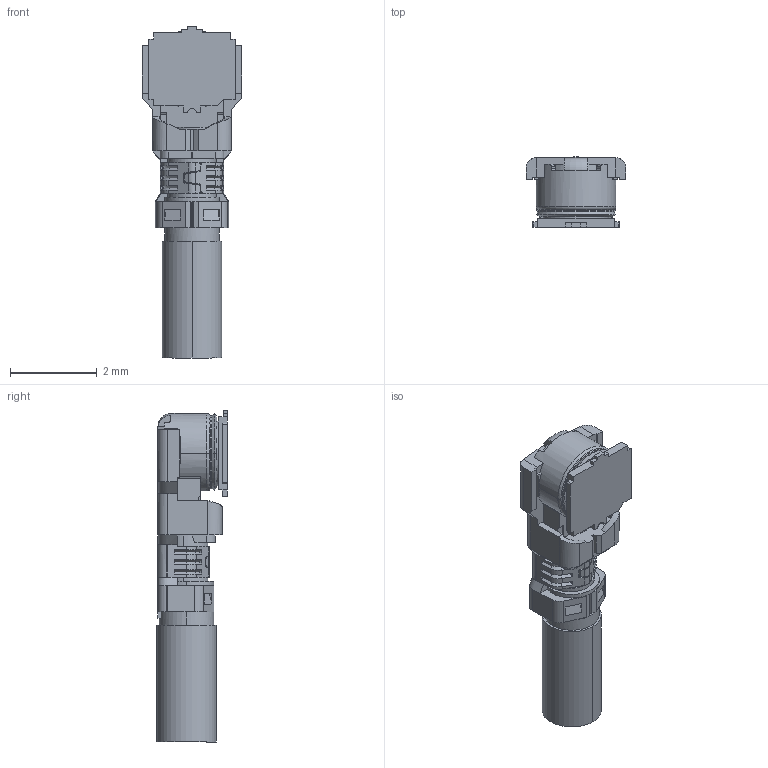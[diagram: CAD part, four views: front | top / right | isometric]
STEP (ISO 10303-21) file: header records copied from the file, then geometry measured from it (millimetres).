
FILE_DESCRIPTION (( 'STEP AP203' ), '1' );
FILE_NAME ('20449-001E+20632-001R-37 MATING STEP R5R1 ALL.STEP', '2018-04-20T09:13:56', ( '' ), ( '' ), 'SwSTEP 2.0', 'SolidWorks 2017', '' );
FILE_SCHEMA (( 'CONFIG_CONTROL_DESIGN' ));
Length unit declared in the file: millimetre
Products named in the file (1): 20449-001E+20632-001R-37 MATING STEP R5R1 ALL
Bounding box: 2.3 x 1.63 x 7.65 mm (x, y, z)
Volume: 14 mm3; surface area: 54.8 mm2
Topology: 1 solids, 1 shells, 347 faces, 931 edges, 595 vertices
Faces by surface type: plane 222, cylinder 90, cone 23, bspline 8, torus 4
Entity records: 11311 total; most frequent: CARTESIAN_POINT 2664, ORIENTED_EDGE 1862, DIRECTION 1695, EDGE_CURVE 931, VECTOR 661, LINE 661, VERTEX_POINT 595, AXIS2_PLACEMENT_3D 517
